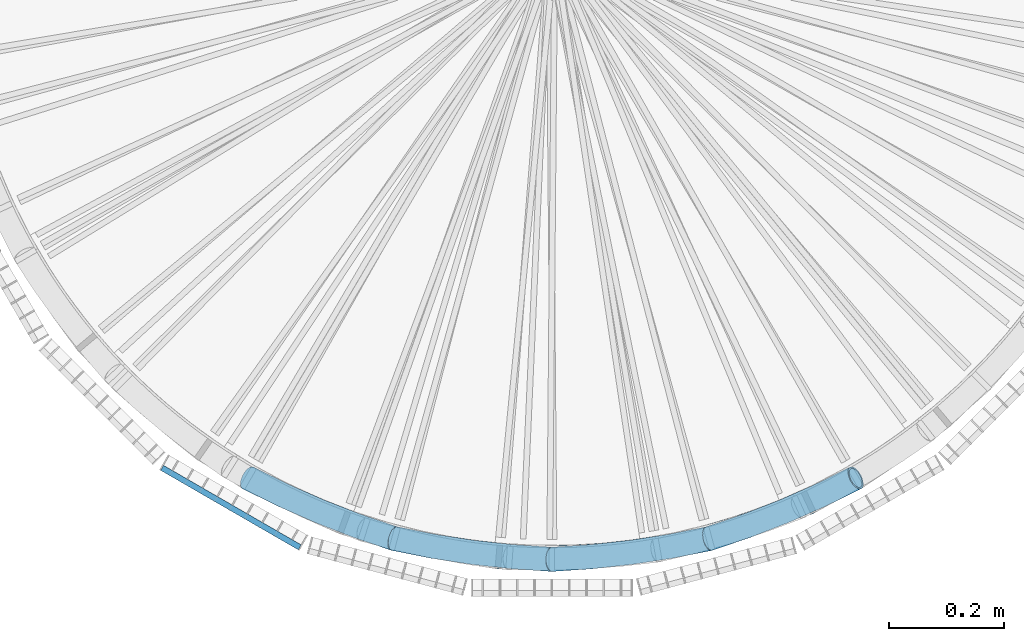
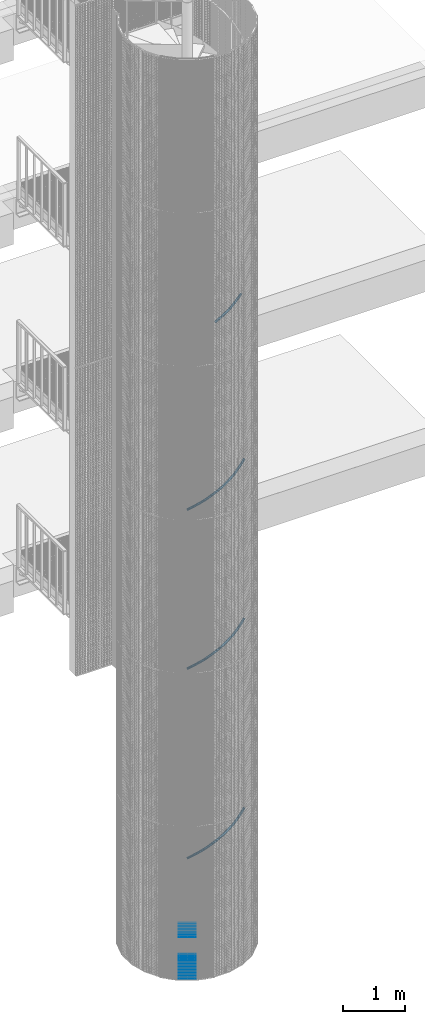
# One storey, part 172 of 1148: 27 beams, 14 members, 15 elements without a shape of their own.
"""IFC2X3 building model written with IfcOpenShell, lengths in millimetres."""

from ifc_helpers import new_model, entity, si_unit, frame, origin_with_axes, origin_2d_with_axis, place, context, subcontext, project, spatial, rectangle, extrude, material, type_object, element, aggregate, save


model = new_model("IFC2X3")

# Units and contexts
model_context = context("Model", 3, precision=1e-05, world=origin_with_axes())
body_context = subcontext(model_context, "Body", "Model", "MODEL_VIEW")
ifc_project = project(units=[si_unit("LENGTHUNIT", "METRE", prefix="MILLI"), si_unit("AREAUNIT", "SQUARE_METRE"), si_unit("VOLUMEUNIT", "CUBIC_METRE"), si_unit("MASSUNIT", "GRAM", prefix="KILO"), si_unit("TIMEUNIT", "SECOND"), si_unit("PLANEANGLEUNIT", "RADIAN"), si_unit("SOLIDANGLEUNIT", "STERADIAN"), si_unit("THERMODYNAMICTEMPERATUREUNIT", "DEGREE_CELSIUS"), si_unit("LUMINOUSINTENSITYUNIT", "LUMEN")], contexts=[model_context])

# Site, building, storey
site_placement = place(None, origin_with_axes())
site = spatial("IfcSite", under=ifc_project, at=site_placement, Name="Undefined", CompositionType="ELEMENT")
building_placement = place(site_placement, origin_with_axes())
building = spatial("IfcBuilding", under=site, at=building_placement, Name="Undefined", CompositionType="ELEMENT")
storey_placement = place(building_placement, origin_with_axes())
storey = spatial("IfcBuildingStorey", under=building, at=storey_placement, Name="Undefined", CompositionType="ELEMENT", Elevation=0.0)

# Assembly, beams
assembly_1_placement = place(storey_placement, origin_with_axes())
assembly_1 = element("IfcElementAssembly", 1, at=assembly_1_placement, inside=storey, Name="BORDURE", AssemblyPlace="NOTDEFINED", PredefinedType="NOTDEFINED")
ifc_material = material(Name="STEEL/S235JR")
beam_type = type_object("IfcBeamType", Name="PL2*10", PredefinedType="NOTDEFINED")
beam_1_placement = place(assembly_1_placement, frame((-676.248044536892, -895.303964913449, 839.999999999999), z_axis=(-0.49999999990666, -0.866025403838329, 0.0), x_axis=(0.866025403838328, -0.49999999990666, 0.0)))
beam_1 = element("IfcBeam", 2, at=beam_1_placement, type_object=beam_type, material=ifc_material, Name="ENTRETOISE", context=body_context, shape_type="SweptSolid", body=[
    extrude(rectangle(XDim=2.0, YDim=10.0, at=origin_2d_with_axis()), frame((275.999999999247, 9.09494701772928e-13, 1.53210777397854e-14), z_axis=(-1.0, 0.0, 0.0), x_axis=(0.0, -1.0, 0.0)), (0.0, 0.0, 1.0), 276.0),
])
beam_2_placement = place(assembly_1_placement, frame((-676.248044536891, -895.303964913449, 509.999999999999), z_axis=(-0.49999999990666, -0.866025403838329, 0.0), x_axis=(0.866025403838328, -0.49999999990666, 0.0)))
beam_2 = element("IfcBeam", 3, at=beam_2_placement, type_object=beam_type, material=ifc_material, Name="ENTRETOISE", context=body_context, shape_type="SweptSolid", body=[
    extrude(rectangle(XDim=2.0, YDim=10.0, at=origin_2d_with_axis()), frame((275.999999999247, 9.09494701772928e-13, 1.53210777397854e-14), z_axis=(-1.0, 0.0, 0.0), x_axis=(0.0, -1.0, 0.0)), (0.0, 0.0, 1.0), 276.0),
])
beam_3_placement = place(assembly_1_placement, frame((-676.248044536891, -895.303964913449, 479.999999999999), z_axis=(-0.49999999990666, -0.866025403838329, 0.0), x_axis=(0.866025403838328, -0.49999999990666, 0.0)))
beam_3 = element("IfcBeam", 4, at=beam_3_placement, type_object=beam_type, material=ifc_material, Name="ENTRETOISE", context=body_context, shape_type="SweptSolid", body=[
    extrude(rectangle(XDim=2.0, YDim=10.0, at=origin_2d_with_axis()), frame((275.999999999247, 9.09494701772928e-13, 1.53210777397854e-14), z_axis=(-1.0, 0.0, 0.0), x_axis=(0.0, -1.0, 0.0)), (0.0, 0.0, 1.0), 276.0),
])
beam_4_placement = place(assembly_1_placement, frame((-676.248044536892, -895.303964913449, 869.999999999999), z_axis=(-0.49999999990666, -0.866025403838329, 0.0), x_axis=(0.866025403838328, -0.49999999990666, 0.0)))
beam_4 = element("IfcBeam", 5, at=beam_4_placement, type_object=beam_type, material=ifc_material, Name="ENTRETOISE", context=body_context, shape_type="SweptSolid", body=[
    extrude(rectangle(XDim=2.0, YDim=10.0, at=origin_2d_with_axis()), frame((275.999999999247, 9.09494701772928e-13, 1.53210777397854e-14), z_axis=(-1.0, 0.0, 0.0), x_axis=(0.0, -1.0, 0.0)), (0.0, 0.0, 1.0), 276.0),
])
beam_5_placement = place(assembly_1_placement, frame((-676.248044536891, -895.30396491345, 449.999999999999), z_axis=(-0.49999999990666, -0.866025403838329, 0.0), x_axis=(0.866025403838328, -0.49999999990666, 0.0)))
beam_5 = element("IfcBeam", 6, at=beam_5_placement, type_object=beam_type, material=ifc_material, Name="ENTRETOISE", context=body_context, shape_type="SweptSolid", body=[
    extrude(rectangle(XDim=2.0, YDim=10.0, at=origin_2d_with_axis()), frame((275.999999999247, 9.09494701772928e-13, 1.53210777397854e-14), z_axis=(-1.0, 0.0, 0.0), x_axis=(0.0, -1.0, 0.0)), (0.0, 0.0, 1.0), 276.0),
])
beam_6_placement = place(assembly_1_placement, frame((-676.24804453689, -895.30396491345, 419.999999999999), z_axis=(-0.49999999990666, -0.866025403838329, 0.0), x_axis=(0.866025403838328, -0.49999999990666, 0.0)))
beam_6 = element("IfcBeam", 7, at=beam_6_placement, type_object=beam_type, material=ifc_material, Name="ENTRETOISE", context=body_context, shape_type="SweptSolid", body=[
    extrude(rectangle(XDim=2.0, YDim=10.0, at=origin_2d_with_axis()), frame((275.999999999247, 9.09494701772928e-13, 1.53210777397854e-14), z_axis=(-1.0, 0.0, 0.0), x_axis=(0.0, -1.0, 0.0)), (0.0, 0.0, 1.0), 276.0),
])
beam_7_placement = place(assembly_1_placement, frame((-676.248044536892, -895.303964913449, 899.999999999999), z_axis=(-0.49999999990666, -0.866025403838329, 0.0), x_axis=(0.866025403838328, -0.49999999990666, 0.0)))
beam_7 = element("IfcBeam", 8, at=beam_7_placement, type_object=beam_type, material=ifc_material, Name="ENTRETOISE", context=body_context, shape_type="SweptSolid", body=[
    extrude(rectangle(XDim=2.0, YDim=10.0, at=origin_2d_with_axis()), frame((275.999999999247, 9.09494701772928e-13, 1.53210777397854e-14), z_axis=(-1.0, 0.0, 0.0), x_axis=(0.0, -1.0, 0.0)), (0.0, 0.0, 1.0), 276.0),
])
beam_8_placement = place(assembly_1_placement, frame((-676.24804453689, -895.30396491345, 389.999999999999), z_axis=(-0.49999999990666, -0.866025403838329, 0.0), x_axis=(0.866025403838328, -0.49999999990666, 0.0)))
beam_8 = element("IfcBeam", 9, at=beam_8_placement, type_object=beam_type, material=ifc_material, Name="ENTRETOISE", context=body_context, shape_type="SweptSolid", body=[
    extrude(rectangle(XDim=2.0, YDim=10.0, at=origin_2d_with_axis()), frame((275.999999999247, 9.09494701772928e-13, 1.53210777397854e-14), z_axis=(-1.0, 0.0, 0.0), x_axis=(0.0, -1.0, 0.0)), (0.0, 0.0, 1.0), 276.0),
])
beam_9_placement = place(assembly_1_placement, frame((-676.248044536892, -895.303964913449, 929.999999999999), z_axis=(-0.49999999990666, -0.866025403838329, 0.0), x_axis=(0.866025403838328, -0.49999999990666, 0.0)))
beam_9 = element("IfcBeam", 10, at=beam_9_placement, type_object=beam_type, material=ifc_material, Name="ENTRETOISE", context=body_context, shape_type="SweptSolid", body=[
    extrude(rectangle(XDim=2.0, YDim=10.0, at=origin_2d_with_axis()), frame((275.999999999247, 9.09494701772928e-13, 1.53210777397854e-14), z_axis=(-1.0, 0.0, 0.0), x_axis=(0.0, -1.0, 0.0)), (0.0, 0.0, 1.0), 276.0),
])
beam_10_placement = place(assembly_1_placement, frame((-676.24804453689, -895.30396491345, 359.999999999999), z_axis=(-0.49999999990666, -0.866025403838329, 0.0), x_axis=(0.866025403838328, -0.49999999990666, 0.0)))
beam_10 = element("IfcBeam", 11, at=beam_10_placement, type_object=beam_type, material=ifc_material, Name="ENTRETOISE", context=body_context, shape_type="SweptSolid", body=[
    extrude(rectangle(XDim=2.0, YDim=10.0, at=origin_2d_with_axis()), frame((275.999999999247, 9.09494701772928e-13, 1.53210777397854e-14), z_axis=(-1.0, 0.0, 0.0), x_axis=(0.0, -1.0, 0.0)), (0.0, 0.0, 1.0), 276.0),
])
beam_11_placement = place(assembly_1_placement, frame((-676.24804453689, -895.30396491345, 329.999999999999), z_axis=(-0.49999999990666, -0.866025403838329, 0.0), x_axis=(0.866025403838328, -0.49999999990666, 0.0)))
beam_11 = element("IfcBeam", 12, at=beam_11_placement, type_object=beam_type, material=ifc_material, Name="ENTRETOISE", context=body_context, shape_type="SweptSolid", body=[
    extrude(rectangle(XDim=2.0, YDim=10.0, at=origin_2d_with_axis()), frame((275.999999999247, 9.09494701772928e-13, 1.53210777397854e-14), z_axis=(-1.0, 0.0, 0.0), x_axis=(0.0, -1.0, 0.0)), (0.0, 0.0, 1.0), 276.0),
])
beam_12_placement = place(assembly_1_placement, frame((-676.248044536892, -895.303964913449, 959.999999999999), z_axis=(-0.49999999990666, -0.866025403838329, 0.0), x_axis=(0.866025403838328, -0.49999999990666, 0.0)))
beam_12 = element("IfcBeam", 13, at=beam_12_placement, type_object=beam_type, material=ifc_material, Name="ENTRETOISE", context=body_context, shape_type="SweptSolid", body=[
    extrude(rectangle(XDim=2.0, YDim=10.0, at=origin_2d_with_axis()), frame((275.999999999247, 9.09494701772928e-13, 1.53210777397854e-14), z_axis=(-1.0, 0.0, 0.0), x_axis=(0.0, -1.0, 0.0)), (0.0, 0.0, 1.0), 276.0),
])
beam_13_placement = place(assembly_1_placement, frame((-676.24804453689, -895.30396491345, 299.999999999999), z_axis=(-0.49999999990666, -0.866025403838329, 0.0), x_axis=(0.866025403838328, -0.49999999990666, 0.0)))
beam_13 = element("IfcBeam", 14, at=beam_13_placement, type_object=beam_type, material=ifc_material, Name="ENTRETOISE", context=body_context, shape_type="SweptSolid", body=[
    extrude(rectangle(XDim=2.0, YDim=10.0, at=origin_2d_with_axis()), frame((275.999999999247, 9.09494701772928e-13, 1.53210777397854e-14), z_axis=(-1.0, 0.0, 0.0), x_axis=(0.0, -1.0, 0.0)), (0.0, 0.0, 1.0), 276.0),
])
beam_14_placement = place(assembly_1_placement, frame((-676.24804453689, -895.30396491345, 269.999999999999), z_axis=(-0.49999999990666, -0.866025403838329, 0.0), x_axis=(0.866025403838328, -0.49999999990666, 0.0)))
beam_14 = element("IfcBeam", 15, at=beam_14_placement, type_object=beam_type, material=ifc_material, Name="ENTRETOISE", context=body_context, shape_type="SweptSolid", body=[
    extrude(rectangle(XDim=2.0, YDim=10.0, at=origin_2d_with_axis()), frame((275.999999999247, 9.09494701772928e-13, 1.53210777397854e-14), z_axis=(-1.0, 0.0, 0.0), x_axis=(0.0, -1.0, 0.0)), (0.0, 0.0, 1.0), 276.0),
])
beam_15_placement = place(assembly_1_placement, frame((-676.248044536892, -895.303964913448, 989.999999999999), z_axis=(-0.49999999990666, -0.866025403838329, 0.0), x_axis=(0.866025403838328, -0.49999999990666, 0.0)))
beam_15 = element("IfcBeam", 16, at=beam_15_placement, type_object=beam_type, material=ifc_material, Name="ENTRETOISE", context=body_context, shape_type="SweptSolid", body=[
    extrude(rectangle(XDim=2.0, YDim=10.0, at=origin_2d_with_axis()), frame((275.999999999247, 9.09494701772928e-13, 1.53210777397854e-14), z_axis=(-1.0, 0.0, 0.0), x_axis=(0.0, -1.0, 0.0)), (0.0, 0.0, 1.0), 276.0),
])
beam_16_placement = place(assembly_1_placement, frame((-676.24804453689, -895.30396491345, 239.999999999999), z_axis=(-0.49999999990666, -0.866025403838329, 0.0), x_axis=(0.866025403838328, -0.49999999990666, 0.0)))
beam_16 = element("IfcBeam", 17, at=beam_16_placement, type_object=beam_type, material=ifc_material, Name="ENTRETOISE", context=body_context, shape_type="SweptSolid", body=[
    extrude(rectangle(XDim=2.0, YDim=10.0, at=origin_2d_with_axis()), frame((275.999999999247, 9.09494701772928e-13, 1.53210777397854e-14), z_axis=(-1.0, 0.0, 0.0), x_axis=(0.0, -1.0, 0.0)), (0.0, 0.0, 1.0), 276.0),
])
beam_17_placement = place(assembly_1_placement, frame((-676.248044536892, -895.303964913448, 1020.0), z_axis=(-0.49999999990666, -0.866025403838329, 0.0), x_axis=(0.866025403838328, -0.49999999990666, 0.0)))
beam_17 = element("IfcBeam", 18, at=beam_17_placement, type_object=beam_type, material=ifc_material, Name="ENTRETOISE", context=body_context, shape_type="SweptSolid", body=[
    extrude(rectangle(XDim=2.0, YDim=10.0, at=origin_2d_with_axis()), frame((275.999999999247, 9.09494701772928e-13, 1.53210777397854e-14), z_axis=(-1.0, 0.0, 0.0), x_axis=(0.0, -1.0, 0.0)), (0.0, 0.0, 1.0), 276.0),
])
beam_18_placement = place(assembly_1_placement, frame((-676.24804453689, -895.30396491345, 209.999999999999), z_axis=(-0.49999999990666, -0.866025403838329, 0.0), x_axis=(0.866025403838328, -0.49999999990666, 0.0)))
beam_18 = element("IfcBeam", 19, at=beam_18_placement, type_object=beam_type, material=ifc_material, Name="ENTRETOISE", context=body_context, shape_type="SweptSolid", body=[
    extrude(rectangle(XDim=2.0, YDim=10.0, at=origin_2d_with_axis()), frame((275.999999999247, 9.09494701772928e-13, 1.53210777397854e-14), z_axis=(-1.0, 0.0, 0.0), x_axis=(0.0, -1.0, 0.0)), (0.0, 0.0, 1.0), 276.0),
])
beam_19_placement = place(assembly_1_placement, frame((-676.24804453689, -895.30396491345, 179.999999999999), z_axis=(-0.49999999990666, -0.866025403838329, 0.0), x_axis=(0.866025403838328, -0.49999999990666, 0.0)))
beam_19 = element("IfcBeam", 20, at=beam_19_placement, type_object=beam_type, material=ifc_material, Name="ENTRETOISE", context=body_context, shape_type="SweptSolid", body=[
    extrude(rectangle(XDim=2.0, YDim=10.0, at=origin_2d_with_axis()), frame((275.999999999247, 9.09494701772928e-13, 1.53210777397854e-14), z_axis=(-1.0, 0.0, 0.0), x_axis=(0.0, -1.0, 0.0)), (0.0, 0.0, 1.0), 276.0),
])
beam_20_placement = place(assembly_1_placement, frame((-676.248044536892, -895.303964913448, 1050.0), z_axis=(-0.49999999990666, -0.866025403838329, 0.0), x_axis=(0.866025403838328, -0.49999999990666, 0.0)))
beam_20 = element("IfcBeam", 21, at=beam_20_placement, type_object=beam_type, material=ifc_material, Name="ENTRETOISE", context=body_context, shape_type="SweptSolid", body=[
    extrude(rectangle(XDim=2.0, YDim=10.0, at=origin_2d_with_axis()), frame((275.999999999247, 9.09494701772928e-13, 1.53210777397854e-14), z_axis=(-1.0, 0.0, 0.0), x_axis=(0.0, -1.0, 0.0)), (0.0, 0.0, 1.0), 276.0),
])
beam_21_placement = place(assembly_1_placement, frame((-676.24804453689, -895.30396491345, 149.999999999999), z_axis=(-0.49999999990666, -0.866025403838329, 0.0), x_axis=(0.866025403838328, -0.49999999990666, 0.0)))
beam_21 = element("IfcBeam", 22, at=beam_21_placement, type_object=beam_type, material=ifc_material, Name="ENTRETOISE", context=body_context, shape_type="SweptSolid", body=[
    extrude(rectangle(XDim=2.0, YDim=10.0, at=origin_2d_with_axis()), frame((275.999999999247, 9.09494701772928e-13, 1.53210777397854e-14), z_axis=(-1.0, 0.0, 0.0), x_axis=(0.0, -1.0, 0.0)), (0.0, 0.0, 1.0), 276.0),
])
beam_22_placement = place(assembly_1_placement, frame((-676.248044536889, -895.30396491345, 119.999999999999), z_axis=(-0.49999999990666, -0.866025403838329, 0.0), x_axis=(0.866025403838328, -0.49999999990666, 0.0)))
beam_22 = element("IfcBeam", 23, at=beam_22_placement, type_object=beam_type, material=ifc_material, Name="ENTRETOISE", context=body_context, shape_type="SweptSolid", body=[
    extrude(rectangle(XDim=2.0, YDim=10.0, at=origin_2d_with_axis()), frame((275.999999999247, 9.09494701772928e-13, 1.53210777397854e-14), z_axis=(-1.0, 0.0, 0.0), x_axis=(0.0, -1.0, 0.0)), (0.0, 0.0, 1.0), 276.0),
])
beam_23_placement = place(assembly_1_placement, frame((-676.248044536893, -895.303964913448, 1080.0), z_axis=(-0.49999999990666, -0.866025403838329, 0.0), x_axis=(0.866025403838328, -0.49999999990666, 0.0)))
beam_23 = element("IfcBeam", 24, at=beam_23_placement, type_object=beam_type, material=ifc_material, Name="ENTRETOISE", context=body_context, shape_type="SweptSolid", body=[
    extrude(rectangle(XDim=2.0, YDim=10.0, at=origin_2d_with_axis()), frame((275.999999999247, 9.09494701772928e-13, 1.53210777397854e-14), z_axis=(-1.0, 0.0, 0.0), x_axis=(0.0, -1.0, 0.0)), (0.0, 0.0, 1.0), 276.0),
])
beam_24_placement = place(assembly_1_placement, frame((-676.248044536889, -895.30396491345, 89.9999999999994), z_axis=(-0.49999999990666, -0.866025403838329, 0.0), x_axis=(0.866025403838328, -0.49999999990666, 0.0)))
beam_24 = element("IfcBeam", 25, at=beam_24_placement, type_object=beam_type, material=ifc_material, Name="ENTRETOISE", context=body_context, shape_type="SweptSolid", body=[
    extrude(rectangle(XDim=2.0, YDim=10.0, at=origin_2d_with_axis()), frame((275.999999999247, 9.09494701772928e-13, 1.53210777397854e-14), z_axis=(-1.0, 0.0, 0.0), x_axis=(0.0, -1.0, 0.0)), (0.0, 0.0, 1.0), 276.0),
])
beam_25_placement = place(assembly_1_placement, frame((-676.248044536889, -895.30396491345, 59.9999999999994), z_axis=(-0.49999999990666, -0.866025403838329, 0.0), x_axis=(0.866025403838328, -0.49999999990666, 0.0)))
beam_25 = element("IfcBeam", 26, at=beam_25_placement, type_object=beam_type, material=ifc_material, Name="ENTRETOISE", context=body_context, shape_type="SweptSolid", body=[
    extrude(rectangle(XDim=2.0, YDim=10.0, at=origin_2d_with_axis()), frame((275.999999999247, 9.09494701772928e-13, 1.53210777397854e-14), z_axis=(-1.0, 0.0, 0.0), x_axis=(0.0, -1.0, 0.0)), (0.0, 0.0, 1.0), 276.0),
])
beam_26_placement = place(assembly_1_placement, frame((-676.248044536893, -895.303964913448, 1110.0), z_axis=(-0.49999999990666, -0.866025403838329, 0.0), x_axis=(0.866025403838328, -0.49999999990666, 0.0)))
beam_26 = element("IfcBeam", 27, at=beam_26_placement, type_object=beam_type, material=ifc_material, Name="ENTRETOISE", context=body_context, shape_type="SweptSolid", body=[
    extrude(rectangle(XDim=2.0, YDim=10.0, at=origin_2d_with_axis()), frame((275.999999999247, 9.09494701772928e-13, 1.53210777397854e-14), z_axis=(-1.0, 0.0, 0.0), x_axis=(0.0, -1.0, 0.0)), (0.0, 0.0, 1.0), 276.0),
])
beam_27_placement = place(assembly_1_placement, frame((-676.248044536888, -895.30396491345, 29.9999999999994), z_axis=(-0.49999999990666, -0.866025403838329, 0.0), x_axis=(0.866025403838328, -0.49999999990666, 0.0)))
beam_27 = element("IfcBeam", 28, at=beam_27_placement, type_object=beam_type, material=ifc_material, Name="ENTRETOISE", context=body_context, shape_type="SweptSolid", body=[
    extrude(rectangle(XDim=2.0, YDim=10.0, at=origin_2d_with_axis()), frame((275.999999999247, 9.09494701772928e-13, 1.53210777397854e-14), z_axis=(-1.0, 0.0, 0.0), x_axis=(0.0, -1.0, 0.0)), (0.0, 0.0, 1.0), 276.0),
])
aggregate(assembly_1, [beam_1, beam_2, beam_3, beam_4, beam_5, beam_6, beam_7, beam_8, beam_9, beam_10, beam_11, beam_12, beam_13, beam_14, beam_15, beam_16, beam_17, beam_18, beam_19, beam_20, beam_21, beam_22, beam_23, beam_24, beam_25, beam_26, beam_27])

# Assembly, member
assembly_2_placement = place(storey_placement, origin_with_axes())
assembly_2 = element("IfcElementAssembly", 29, at=assembly_2_placement, inside=storey, Name="MONTANT", AssemblyPlace="NOTDEFINED", PredefinedType="NOTDEFINED")
member_type = type_object("IfcMemberType", Name="TUBE-42.4*3.2", PredefinedType="NOTDEFINED")
member_1_placement = place(assembly_2_placement, frame((272.79527353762, -1018.08582090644, 6508.20000000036), z_axis=(0.382683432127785, -0.923879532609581, -1.50203959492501e-10), x_axis=(0.805545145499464, 0.333667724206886, 0.489655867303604)))
member_1 = element("IfcMember", 30, at=member_1_placement, type_object=member_type, material=ifc_material, Name="MAIN_COURANTE", context=body_context, shape_type="SweptSolid", body=[
    entity("IfcRevolvedAreaSolid", entity("IfcCircleHollowProfileDef", "AREA", None, entity("IfcAxis2Placement2D", entity("IfcCartesianPoint", [0.0, 0.0]), entity("IfcDirection", [1.0, 0.0])), 21.200000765, 3.200000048), entity("IfcAxis2Placement3D", entity("IfcCartesianPoint", [315.568566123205, -9.09494701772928e-13, -1.31255851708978e-15]), entity("IfcDirection", [-0.997194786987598, -4.44488503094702e-18, 0.0748502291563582]), entity("IfcDirection", [0.0, -1.0, 0.0])), entity("IfcAxis1Placement", entity("IfcCartesianPoint", [0.0, -2108.0, 0.0]), entity("IfcDirection", [1.0, 0.0, 0.0])), 0.149840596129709),
])
aggregate(assembly_2, [member_1])

assembly_3_placement = place(storey_placement, origin_with_axes())
assembly_3 = element("IfcElementAssembly", 31, at=assembly_3_placement, inside=storey, Name="MONTANT", AssemblyPlace="NOTDEFINED", PredefinedType="NOTDEFINED")
member_2_placement = place(assembly_3_placement, frame((-4.48949322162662e-10, -1054.00000001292, 6353.68000000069), z_axis=(0.130526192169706, -0.991444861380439, -6.66022970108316e-11), x_axis=(0.864456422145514, 0.113807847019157, 0.489655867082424)))
member_2 = element("IfcMember", 32, at=member_2_placement, type_object=member_type, material=ifc_material, Name="MAIN_COURANTE", context=body_context, shape_type="SweptSolid", body=[
    entity("IfcRevolvedAreaSolid", entity("IfcCircleHollowProfileDef", "AREA", None, entity("IfcAxis2Placement2D", entity("IfcCartesianPoint", [0.0, 0.0]), entity("IfcDirection", [1.0, 0.0])), 21.200000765, 3.200000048), entity("IfcAxis2Placement3D", entity("IfcCartesianPoint", [315.568566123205, -9.09494701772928e-13, -1.31255851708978e-15]), entity("IfcDirection", [-0.997194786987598, -4.44488503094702e-18, 0.0748502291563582]), entity("IfcDirection", [0.0, -1.0, 0.0])), entity("IfcAxis1Placement", entity("IfcCartesianPoint", [0.0, -2108.0, 0.0]), entity("IfcDirection", [1.0, 0.0, 0.0])), 0.149840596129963),
])
aggregate(assembly_3, [member_2])

assembly_4_placement = place(storey_placement, origin_with_axes())
assembly_4 = element("IfcElementAssembly", 33, at=assembly_4_placement, inside=storey, Name="MONTANT", AssemblyPlace="NOTDEFINED", PredefinedType="NOTDEFINED")
member_3_placement = place(assembly_4_placement, frame((-272.795273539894, -1018.08582091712, 6199.15999999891), z_axis=(-0.130526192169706, -0.991444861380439, 6.66022970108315e-11), x_axis=(0.864456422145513, -0.113807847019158, 0.489655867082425)))
member_3 = element("IfcMember", 34, at=member_3_placement, type_object=member_type, material=ifc_material, Name="MAIN_COURANTE", context=body_context, shape_type="SweptSolid", body=[
    entity("IfcRevolvedAreaSolid", entity("IfcCircleHollowProfileDef", "AREA", None, entity("IfcAxis2Placement2D", entity("IfcCartesianPoint", [0.0, 0.0]), entity("IfcDirection", [1.0, 0.0])), 21.200000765, 3.200000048), entity("IfcAxis2Placement3D", entity("IfcCartesianPoint", [315.568566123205, -9.09494701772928e-13, -1.31255851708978e-15]), entity("IfcDirection", [-0.997194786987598, -4.44488503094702e-18, 0.0748502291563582]), entity("IfcDirection", [0.0, -1.0, 0.0])), entity("IfcAxis1Placement", entity("IfcCartesianPoint", [0.0, -2108.0, 0.0]), entity("IfcDirection", [1.0, 0.0, 0.0])), 0.14984059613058),
])
aggregate(assembly_4, [member_3])

assembly_5_placement = place(storey_placement, origin_with_axes())
assembly_5 = element("IfcElementAssembly", 35, at=assembly_5_placement, inside=storey, Name="MONTANT", AssemblyPlace="NOTDEFINED", PredefinedType="NOTDEFINED")
member_4_placement = place(assembly_5_placement, frame((-526.999999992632, -912.790775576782, 6044.63999999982), z_axis=(-0.382683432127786, -0.923879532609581, 1.50204868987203e-10), x_axis=(0.805545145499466, -0.333667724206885, 0.489655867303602)))
member_4 = element("IfcMember", 36, at=member_4_placement, type_object=member_type, material=ifc_material, Name="MAIN_COURANTE", context=body_context, shape_type="SweptSolid", body=[
    entity("IfcRevolvedAreaSolid", entity("IfcCircleHollowProfileDef", "AREA", None, entity("IfcAxis2Placement2D", entity("IfcCartesianPoint", [0.0, 0.0]), entity("IfcDirection", [1.0, 0.0])), 21.200000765, 3.200000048), entity("IfcAxis2Placement3D", entity("IfcCartesianPoint", [315.568566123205, -9.09494701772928e-13, -1.31255851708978e-15]), entity("IfcDirection", [-0.997194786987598, -4.44488503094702e-18, 0.0748502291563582]), entity("IfcDirection", [0.0, -1.0, 0.0])), entity("IfcAxis1Placement", entity("IfcCartesianPoint", [0.0, -2108.0, 0.0]), entity("IfcDirection", [1.0, 0.0, 0.0])), 0.149840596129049),
])
aggregate(assembly_5, [member_4])

assembly_6_placement = place(storey_placement, origin_with_axes())
assembly_6 = element("IfcElementAssembly", 37, at=assembly_6_placement, inside=storey, Name="MONTANT", AssemblyPlace="NOTDEFINED", PredefinedType="NOTDEFINED")
member_5_placement = place(assembly_6_placement, frame((272.795273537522, -1018.08582090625, 2799.7200000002), z_axis=(0.382683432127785, -0.923879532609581, -1.50203959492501e-10), x_axis=(0.805545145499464, 0.333667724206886, 0.489655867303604)))
member_5 = element("IfcMember", 38, at=member_5_placement, type_object=member_type, material=ifc_material, Name="MAIN_COURANTE", context=body_context, shape_type="SweptSolid", body=[
    entity("IfcRevolvedAreaSolid", entity("IfcCircleHollowProfileDef", "AREA", None, entity("IfcAxis2Placement2D", entity("IfcCartesianPoint", [0.0, 0.0]), entity("IfcDirection", [1.0, 0.0])), 21.200000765, 3.200000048), entity("IfcAxis2Placement3D", entity("IfcCartesianPoint", [315.568566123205, -9.09494701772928e-13, -1.31255851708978e-15]), entity("IfcDirection", [-0.997194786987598, -4.44488503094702e-18, 0.0748502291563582]), entity("IfcDirection", [0.0, -1.0, 0.0])), entity("IfcAxis1Placement", entity("IfcCartesianPoint", [0.0, -2108.0, 0.0]), entity("IfcDirection", [1.0, 0.0, 0.0])), 0.149840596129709),
])
aggregate(assembly_6, [member_5])

assembly_7_placement = place(storey_placement, origin_with_axes())
assembly_7 = element("IfcElementAssembly", 39, at=assembly_7_placement, inside=storey, Name="MONTANT", AssemblyPlace="NOTDEFINED", PredefinedType="NOTDEFINED")
member_6_placement = place(assembly_7_placement, frame((-2.73075784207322e-10, -1054.00000001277, 2645.20000000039), z_axis=(0.130526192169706, -0.991444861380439, -6.66022970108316e-11), x_axis=(0.864456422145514, 0.113807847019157, 0.489655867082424)))
member_6 = element("IfcMember", 40, at=member_6_placement, type_object=member_type, material=ifc_material, Name="MAIN_COURANTE", context=body_context, shape_type="SweptSolid", body=[
    entity("IfcRevolvedAreaSolid", entity("IfcCircleHollowProfileDef", "AREA", None, entity("IfcAxis2Placement2D", entity("IfcCartesianPoint", [0.0, 0.0]), entity("IfcDirection", [1.0, 0.0])), 21.200000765, 3.200000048), entity("IfcAxis2Placement3D", entity("IfcCartesianPoint", [315.568566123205, -9.09494701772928e-13, -1.31255851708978e-15]), entity("IfcDirection", [-0.997194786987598, -4.44488503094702e-18, 0.0748502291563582]), entity("IfcDirection", [0.0, -1.0, 0.0])), entity("IfcAxis1Placement", entity("IfcCartesianPoint", [0.0, -2108.0, 0.0]), entity("IfcDirection", [1.0, 0.0, 0.0])), 0.149840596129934),
])
aggregate(assembly_7, [member_6])

assembly_8_placement = place(storey_placement, origin_with_axes())
assembly_8 = element("IfcElementAssembly", 41, at=assembly_8_placement, inside=storey, Name="MONTANT", AssemblyPlace="NOTDEFINED", PredefinedType="NOTDEFINED")
member_7_placement = place(assembly_8_placement, frame((-272.795273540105, -1018.08582091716, 2490.67999999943), z_axis=(-0.130526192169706, -0.991444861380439, 6.66022970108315e-11), x_axis=(0.864456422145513, -0.113807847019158, 0.489655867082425)))
member_7 = element("IfcMember", 42, at=member_7_placement, type_object=member_type, material=ifc_material, Name="MAIN_COURANTE", context=body_context, shape_type="SweptSolid", body=[
    entity("IfcRevolvedAreaSolid", entity("IfcCircleHollowProfileDef", "AREA", None, entity("IfcAxis2Placement2D", entity("IfcCartesianPoint", [0.0, 0.0]), entity("IfcDirection", [1.0, 0.0])), 21.200000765, 3.200000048), entity("IfcAxis2Placement3D", entity("IfcCartesianPoint", [315.568566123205, -9.09494701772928e-13, -1.31255851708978e-15]), entity("IfcDirection", [-0.997194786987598, -4.44488503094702e-18, 0.0748502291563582]), entity("IfcDirection", [0.0, -1.0, 0.0])), entity("IfcAxis1Placement", entity("IfcCartesianPoint", [0.0, -2108.0, 0.0]), entity("IfcDirection", [1.0, 0.0, 0.0])), 0.149840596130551),
])
aggregate(assembly_8, [member_7])

assembly_9_placement = place(storey_placement, origin_with_axes())
assembly_9 = element("IfcElementAssembly", 43, at=assembly_9_placement, inside=storey, Name="MONTANT", AssemblyPlace="NOTDEFINED", PredefinedType="NOTDEFINED")
member_8_placement = place(assembly_9_placement, frame((-526.999999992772, -912.790775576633, 2336.15999999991), z_axis=(-0.382683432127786, -0.923879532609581, 1.50204868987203e-10), x_axis=(0.805545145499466, -0.333667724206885, 0.489655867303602)))
member_8 = element("IfcMember", 44, at=member_8_placement, type_object=member_type, material=ifc_material, Name="MAIN_COURANTE", context=body_context, shape_type="SweptSolid", body=[
    entity("IfcRevolvedAreaSolid", entity("IfcCircleHollowProfileDef", "AREA", None, entity("IfcAxis2Placement2D", entity("IfcCartesianPoint", [0.0, 0.0]), entity("IfcDirection", [1.0, 0.0])), 21.200000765, 3.200000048), entity("IfcAxis2Placement3D", entity("IfcCartesianPoint", [315.568566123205, -9.09494701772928e-13, -1.31255851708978e-15]), entity("IfcDirection", [-0.997194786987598, -4.44488503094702e-18, 0.0748502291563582]), entity("IfcDirection", [0.0, -1.0, 0.0])), entity("IfcAxis1Placement", entity("IfcCartesianPoint", [0.0, -2108.0, 0.0]), entity("IfcDirection", [1.0, 0.0, 0.0])), 0.149840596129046),
])
aggregate(assembly_9, [member_8])

assembly_10_placement = place(storey_placement, origin_with_axes())
assembly_10 = element("IfcElementAssembly", 45, at=assembly_10_placement, inside=storey, Name="MONTANT", AssemblyPlace="NOTDEFINED", PredefinedType="NOTDEFINED")
member_9_placement = place(assembly_10_placement, frame((272.795273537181, -1018.08582090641, 9624.76000000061), z_axis=(0.382683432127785, -0.923879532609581, -1.50203959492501e-10), x_axis=(0.803040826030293, 0.332630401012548, 0.494451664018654)))
member_9 = element("IfcMember", 46, at=member_9_placement, type_object=member_type, material=ifc_material, Name="MAIN_COURANTE", context=body_context, shape_type="SweptSolid", body=[
    entity("IfcRevolvedAreaSolid", entity("IfcCircleHollowProfileDef", "AREA", None, entity("IfcAxis2Placement2D", entity("IfcCartesianPoint", [0.0, 0.0]), entity("IfcDirection", [1.0, 0.0])), 21.200000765, 3.200000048), entity("IfcAxis2Placement3D", entity("IfcCartesianPoint", [316.552681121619, 9.09494701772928e-13, -1.82569453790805e-12]), entity("IfcDirection", [-0.997177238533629, 2.1263748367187e-18, 0.0750836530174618]), entity("IfcDirection", [0.0, -1.0, 0.0])), entity("IfcAxis1Placement", entity("IfcCartesianPoint", [0.0, -2108.0, 0.0]), entity("IfcDirection", [1.0, 0.0, 0.0])), 0.150308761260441),
])
aggregate(assembly_10, [member_9])

assembly_11_placement = place(storey_placement, origin_with_axes())
assembly_11 = element("IfcElementAssembly", 47, at=assembly_11_placement, inside=storey, Name="MONTANT", AssemblyPlace="NOTDEFINED", PredefinedType="NOTDEFINED")
member_10_placement = place(assembly_11_placement, frame((2.88196133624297e-10, -1053.9999999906, 9468.23999999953), z_axis=(0.130526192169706, -0.991444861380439, -6.66022970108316e-11), x_axis=(0.861768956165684, 0.113454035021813, 0.494451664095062)))
member_10 = element("IfcMember", 48, at=member_10_placement, type_object=member_type, material=ifc_material, Name="MAIN_COURANTE", context=body_context, shape_type="SweptSolid", body=[
    entity("IfcRevolvedAreaSolid", entity("IfcCircleHollowProfileDef", "AREA", None, entity("IfcAxis2Placement2D", entity("IfcCartesianPoint", [0.0, 0.0]), entity("IfcDirection", [1.0, 0.0])), 21.200000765, 3.200000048), entity("IfcAxis2Placement3D", entity("IfcCartesianPoint", [316.552681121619, 9.09494701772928e-13, -1.82569453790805e-12]), entity("IfcDirection", [-0.997177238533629, 2.1263748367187e-18, 0.0750836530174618]), entity("IfcDirection", [0.0, -1.0, 0.0])), entity("IfcAxis1Placement", entity("IfcCartesianPoint", [0.0, -2108.0, 0.0]), entity("IfcDirection", [1.0, 0.0, 0.0])), 0.150308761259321),
])
aggregate(assembly_11, [member_10])

assembly_12_placement = place(storey_placement, origin_with_axes())
assembly_12 = element("IfcElementAssembly", 49, at=assembly_12_placement, inside=storey, Name="MONTANT", AssemblyPlace="NOTDEFINED", PredefinedType="NOTDEFINED")
member_11_placement = place(assembly_12_placement, frame((-272.795273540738, -1018.08582091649, 9311.72000000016), z_axis=(-0.130526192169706, -0.991444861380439, 6.66022970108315e-11), x_axis=(0.861768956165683, -0.113454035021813, 0.494451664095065)))
member_11 = element("IfcMember", 50, at=member_11_placement, type_object=member_type, material=ifc_material, Name="MAIN_COURANTE", context=body_context, shape_type="SweptSolid", body=[
    entity("IfcRevolvedAreaSolid", entity("IfcCircleHollowProfileDef", "AREA", None, entity("IfcAxis2Placement2D", entity("IfcCartesianPoint", [0.0, 0.0]), entity("IfcDirection", [1.0, 0.0])), 21.200000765, 3.200000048), entity("IfcAxis2Placement3D", entity("IfcCartesianPoint", [316.552681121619, 9.09494701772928e-13, -1.82569453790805e-12]), entity("IfcDirection", [-0.997177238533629, 2.1263748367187e-18, 0.0750836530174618]), entity("IfcDirection", [0.0, -1.0, 0.0])), entity("IfcAxis1Placement", entity("IfcCartesianPoint", [0.0, -2108.0, 0.0]), entity("IfcDirection", [1.0, 0.0, 0.0])), 0.150308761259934),
])
aggregate(assembly_12, [member_11])

assembly_13_placement = place(storey_placement, origin_with_axes())
assembly_13 = element("IfcElementAssembly", 51, at=assembly_13_placement, inside=storey, Name="MONTANT", AssemblyPlace="NOTDEFINED", PredefinedType="NOTDEFINED")
member_12_placement = place(assembly_13_placement, frame((-527.000000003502, -912.790775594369, 9155.19999999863), z_axis=(-0.382683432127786, -0.923879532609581, 1.50204868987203e-10), x_axis=(0.803040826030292, -0.332630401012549, 0.494451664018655)))
member_12 = element("IfcMember", 52, at=member_12_placement, type_object=member_type, material=ifc_material, Name="MAIN_COURANTE", context=body_context, shape_type="SweptSolid", body=[
    entity("IfcRevolvedAreaSolid", entity("IfcCircleHollowProfileDef", "AREA", None, entity("IfcAxis2Placement2D", entity("IfcCartesianPoint", [0.0, 0.0]), entity("IfcDirection", [1.0, 0.0])), 21.200000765, 3.200000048), entity("IfcAxis2Placement3D", entity("IfcCartesianPoint", [316.552681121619, 9.09494701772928e-13, -1.82569453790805e-12]), entity("IfcDirection", [-0.997177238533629, 2.1263748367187e-18, 0.0750836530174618]), entity("IfcDirection", [0.0, -1.0, 0.0])), entity("IfcAxis1Placement", entity("IfcCartesianPoint", [0.0, -2108.0, 0.0]), entity("IfcDirection", [1.0, 0.0, 0.0])), 0.150308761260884),
])
aggregate(assembly_13, [member_12])

assembly_14_placement = place(storey_placement, origin_with_axes())
assembly_14 = element("IfcElementAssembly", 53, at=assembly_14_placement, inside=storey, Name="MONTANT", AssemblyPlace="NOTDEFINED", PredefinedType="NOTDEFINED")
member_13_placement = place(assembly_14_placement, frame((183.025179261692, -1037.98737168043, 12911.7199999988), z_axis=(0.300705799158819, -0.953716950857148, -4.31926309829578e-10), x_axis=(0.828975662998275, 0.261375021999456, 0.494451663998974)))
member_13 = element("IfcMember", 54, at=member_13_placement, type_object=member_type, material=ifc_material, Name="MAIN_COURANTE", context=body_context, shape_type="SweptSolid", body=[
    entity("IfcRevolvedAreaSolid", entity("IfcCircleHollowProfileDef", "AREA", None, entity("IfcAxis2Placement2D", entity("IfcCartesianPoint", [0.0, 0.0]), entity("IfcDirection", [1.0, 0.0])), 21.200000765, 3.200000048), entity("IfcAxis2Placement3D", entity("IfcCartesianPoint", [316.552681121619, 9.09494701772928e-13, -1.82569453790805e-12]), entity("IfcDirection", [-0.997177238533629, 2.1263748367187e-18, 0.0750836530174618]), entity("IfcDirection", [0.0, -1.0, 0.0])), entity("IfcAxis1Placement", entity("IfcCartesianPoint", [0.0, -2108.0, 0.0]), entity("IfcDirection", [1.0, 0.0, 0.0])), 0.150308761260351),
])
aggregate(assembly_14, [member_13])

assembly_15_placement = place(storey_placement, origin_with_axes())
assembly_15 = element("IfcElementAssembly", 55, at=assembly_15_placement, inside=storey, Name="MONTANT", AssemblyPlace="NOTDEFINED", PredefinedType="NOTDEFINED")
member_14_placement = place(assembly_15_placement, frame((-91.8621528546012, -1049.98921176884, 12755.2000000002), z_axis=(0.0436193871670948, -0.999048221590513, 1.05123035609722e-10), x_axis=(0.868377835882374, 0.0379141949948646, 0.494451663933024)))
member_14 = element("IfcMember", 56, at=member_14_placement, type_object=member_type, material=ifc_material, Name="MAIN_COURANTE", context=body_context, shape_type="SweptSolid", body=[
    entity("IfcRevolvedAreaSolid", entity("IfcCircleHollowProfileDef", "AREA", None, entity("IfcAxis2Placement2D", entity("IfcCartesianPoint", [0.0, 0.0]), entity("IfcDirection", [1.0, 0.0])), 21.200000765, 3.200000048), entity("IfcAxis2Placement3D", entity("IfcCartesianPoint", [316.552681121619, 9.09494701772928e-13, -1.82569453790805e-12]), entity("IfcDirection", [-0.997177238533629, 2.1263748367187e-18, 0.0750836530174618]), entity("IfcDirection", [0.0, -1.0, 0.0])), entity("IfcAxis1Placement", entity("IfcCartesianPoint", [0.0, -2108.0, 0.0]), entity("IfcDirection", [1.0, 0.0, 0.0])), 0.150308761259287),
])
aggregate(assembly_15, [member_14])

save(model, "model.ifc")
